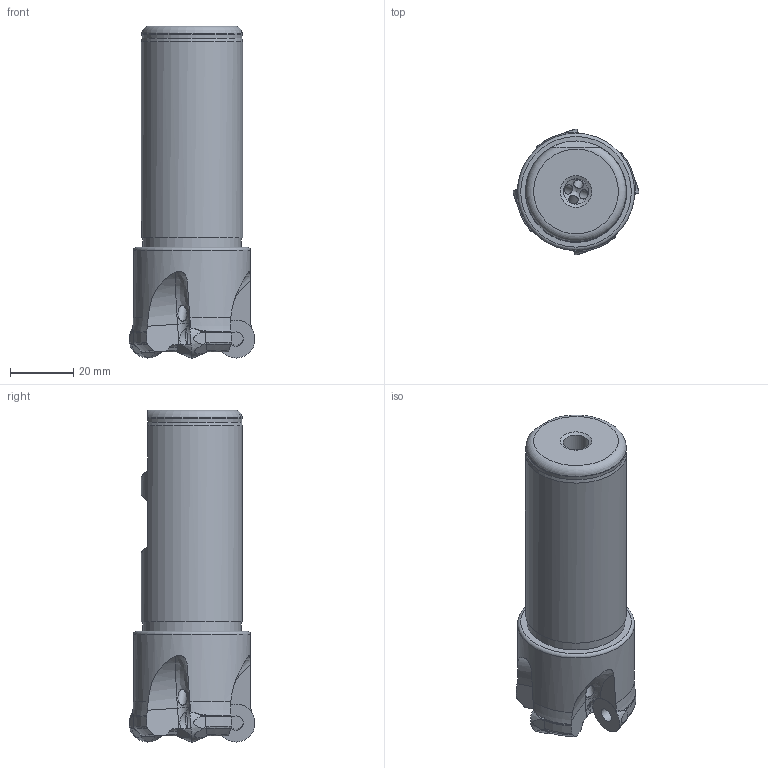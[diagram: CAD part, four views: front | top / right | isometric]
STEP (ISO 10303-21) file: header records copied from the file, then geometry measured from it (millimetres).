
FILE_DESCRIPTION(/* description */ (''),/* implementation_level */ '2;1');
FILE_NAME(/* name */ 'FMRS4040HRP-4S32-HAAS_211209.stp',/* time_stamp */ '2021-12-09T16:20:05+09:00',/* author */ (''),/* organization */ (''),/* preprocessor_version */ 'ST-DEVELOPER v16',/* originating_system */ 'SIEMENS PLM Software NX 10.0',/* authorisation */ '');
FILE_SCHEMA (('AUTOMOTIVE_DESIGN { 1 0 10303 214 3 1 1 1 }'));
Length unit declared in the file: millimetre
Products named in the file (1): user583C6A71u37n
Bounding box: 39.85 x 39.85 x 105 mm (x, y, z)
Volume: 78901.5 mm3; surface area: 17151.3 mm2
Topology: 5 solids, 5 shells, 188 faces, 618 edges, 441 vertices
Faces by surface type: plane 65, cylinder 61, torus 34, cone 24, bspline 4
Full cylindrical faces by diameter (mm): 3 x4, 4.5 x4, 8 x1, 31 x1, 32 x1, 37 x1
Entity records: 9057 total; most frequent: CARTESIAN_POINT 3202, ORIENTED_EDGE 1156, DIRECTION 1059, EDGE_CURVE 578, AXIS2_PLACEMENT_3D 461, VERTEX_POINT 424, EDGE_LOOP 227, ADVANCED_FACE 188
